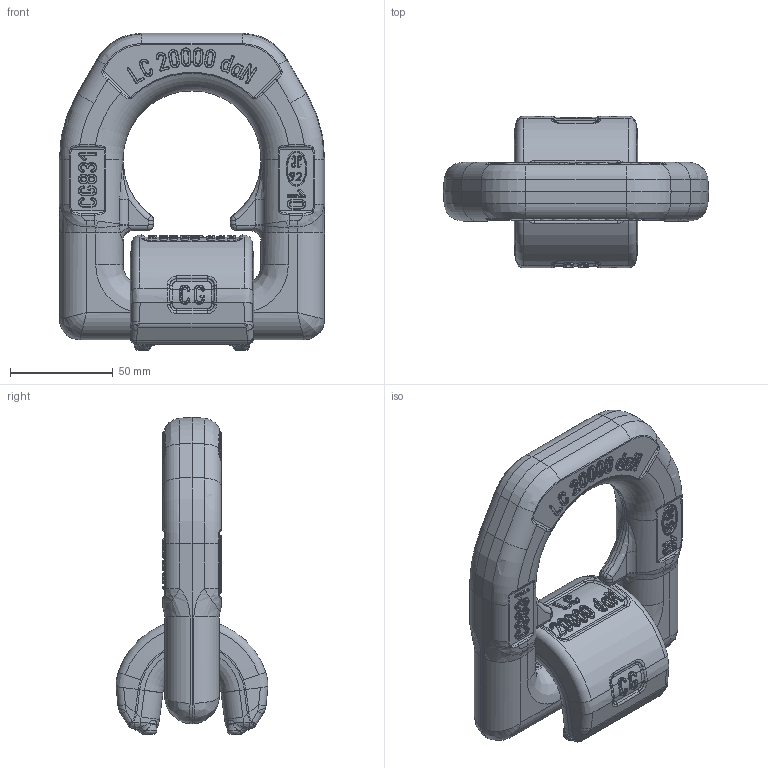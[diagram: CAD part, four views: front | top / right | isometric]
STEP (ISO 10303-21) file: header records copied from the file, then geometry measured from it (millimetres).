
FILE_DESCRIPTION(/* description */ (''),/* implementation_level */ '2;1');
FILE_NAME(/* name */ 'C831X20.stp',/* time_stamp */ '2013-06-05T16:18:44+02:00',/* author */ (''),/* organization */ (''),/* preprocessor_version */ 'ST-DEVELOPER v11',/* originating_system */ 'SIEMENS PLM Software NX 7.5',/* authorisation */ '');
FILE_SCHEMA (('CONFIG_CONTROL_DESIGN'));
Length unit declared in the file: millimetre
Products named in the file (1): ugii64F4wpc9
Bounding box: 129 x 73.82 x 154.15 mm (x, y, z)
Volume: 409356.2 mm3; surface area: 60423.2 mm2
Topology: 2 solids, 2 shells, 1765 faces, 4142 edges, 2444 vertices
Faces by surface type: cylinder 608, bspline 436, plane 428, torus 238, extrusion 39, cone 16
Entity records: 70336 total; most frequent: CARTESIAN_POINT 32333, ORIENTED_EDGE 8248, DIRECTION 7572, EDGE_CURVE 4124, AXIS2_PLACEMENT_3D 3005, VERTEX_POINT 2439, EDGE_LOOP 1843, ADVANCED_FACE 1765
